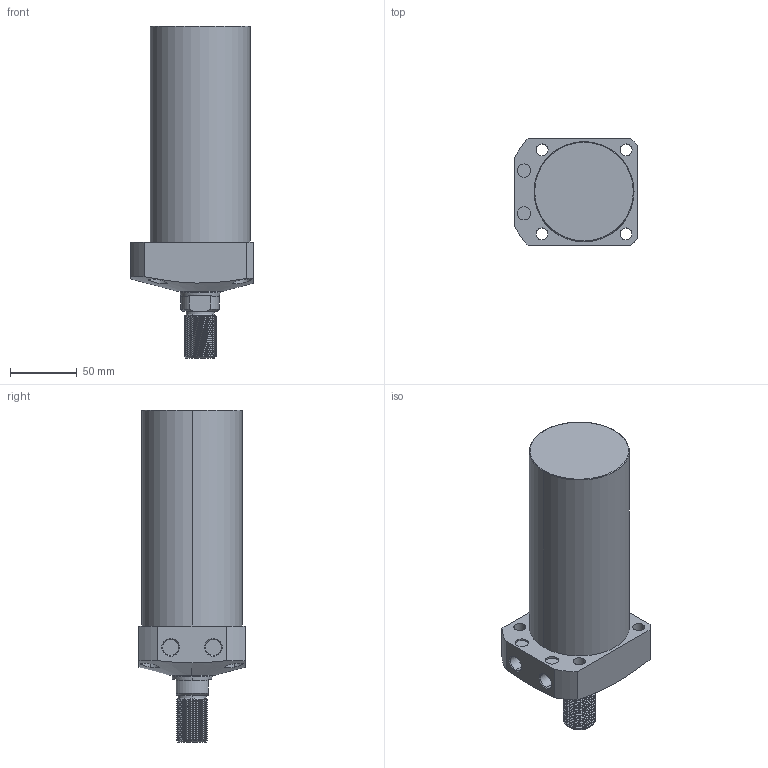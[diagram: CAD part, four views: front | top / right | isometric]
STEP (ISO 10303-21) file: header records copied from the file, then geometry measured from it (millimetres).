
FILE_DESCRIPTION (( 'STEP AP203' ), '1' );
FILE_NAME ('CLL-075CT-125.STEP', '2020-01-08T12:07:46', ( '' ), ( '' ), 'SwSTEP 2.0', 'SolidWorks 2015', '' );
FILE_SCHEMA (( 'CONFIG_CONTROL_DESIGN' ));
Length unit declared in the file: millimetre
Products named in the file (1): CLL-075CT-125
Bounding box: 92 x 80 x 249 mm (x, y, z)
Volume: 956932.8 mm3; surface area: 72993.7 mm2
Topology: 1 solids, 1 shells, 121 faces, 310 edges, 202 vertices
Faces by surface type: cylinder 77, plane 23, cone 17, torus 2, bspline 2
Entity records: 6531 total; most frequent: CARTESIAN_POINT 3741, ORIENTED_EDGE 620, DIRECTION 517, EDGE_CURVE 310, AXIS2_PLACEMENT_3D 204, VERTEX_POINT 202, EDGE_LOOP 140, FACE_OUTER_BOUND 121
